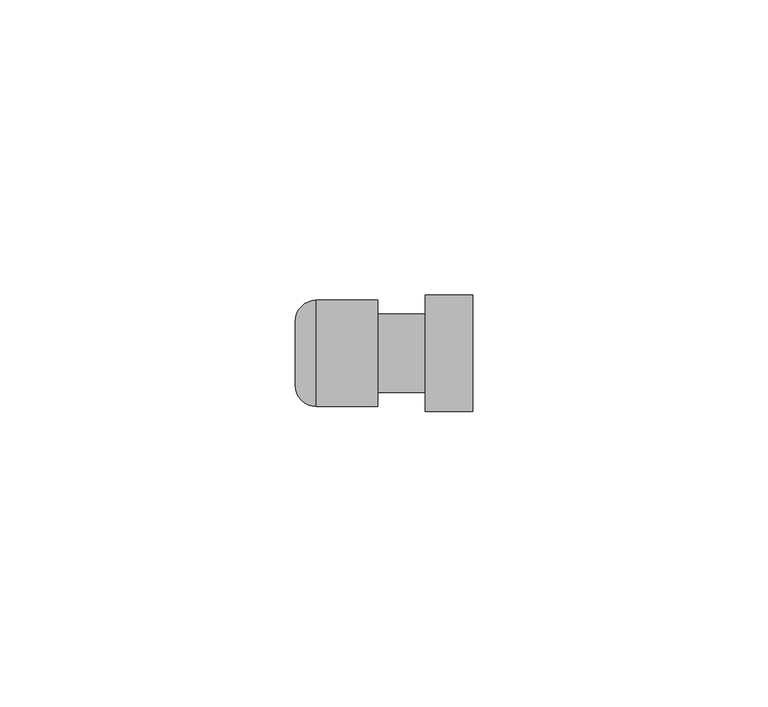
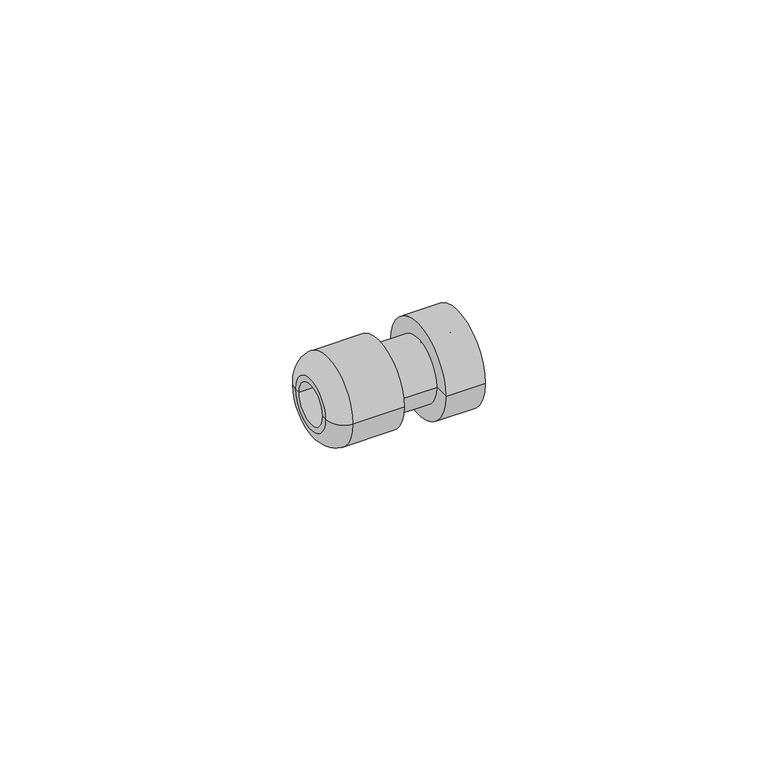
"""IFC4 building model written with IfcOpenShell, lengths in millimetres: cable carrier fitting geometry."""

from ifc_helpers import new_model, si_unit, point, frame, origin, place, context, project, spatial, polyline, circle_curve, ellipse_curve, trimmed, source, transform, mapped, element, save
from ifc_brep_helpers import plane_surface, cylinder_surface, revolved_surface, advanced_brep


def cable_carrier_fitting_92adc8bc(model_context):
    return source(origin(), model_context, "Body", "AdvancedBrep", [
        advanced_brep(
        [(0.0, -9.0, 0.0), (0.0, 9.0, 0.0), (0.0, 6.625, 0.0), (0.0, -6.625, 0.0), (-10.339955, -9.0, 0.0), (-10.339955, 9.0, 0.0), (-13.9, -5.439955, 0.0), (-13.9, 5.439955, 0.0), (-13.9, -4.25, 0.0), (-13.9, 4.25, 0.0), (16.1, -4.25, 0.0), (16.1, 4.25, 0.0), (16.1, -9.85, 0.0), (16.1, 9.85, 0.0), (8.1, -9.85, 0.0), (8.1, 9.85, 0.0), (8.1, -6.625, 0.0), (8.1, 6.625, 0.0)],
        [
            (0, 1, circle_curve(frame((0.0, 0.0, 0.0), z_axis=(1.0, 0.0, 0.0), x_axis=(0.0, 1.0, 0.0)), 9.0)),
            (1, 2),
            (2, 3, circle_curve(frame((0.0, 0.0, 0.0), z_axis=(-1.0, 0.0, 0.0), x_axis=(0.0, 1.0, 0.0)), 6.625)),
            (3, 0),
            (1, 0, circle_curve(frame((0.0, 0.0, 0.0), z_axis=(1.0, 0.0, 0.0), x_axis=(0.0, 1.0, 0.0)), 9.0)),
            (3, 2, circle_curve(frame((0.0, 0.0, 0.0), z_axis=(-1.0, 0.0, 0.0), x_axis=(0.0, 1.0, 0.0)), 6.625)),
            (4, 5, circle_curve(frame((-10.339955, 0.0, 0.0), z_axis=(1.0, 0.0, 0.0), x_axis=(0.0, 1.0, 0.0)), 9.0)),
            (5, 1),
            (0, 4),
            (5, 4, circle_curve(frame((-10.339955, 0.0, 0.0), z_axis=(1.0, 0.0, 0.0), x_axis=(0.0, 1.0, 0.0)), 9.0)),
            (6, 7, circle_curve(frame((-13.9, 0.0, 0.0), z_axis=(1.0, 0.0, 0.0), x_axis=(0.0, 1.0, 0.0)), 5.439955)),
            (7, 5, circle_curve(frame((-10.339955, 5.439955, 0.0), z_axis=(0.0, 0.0, -1.0), x_axis=(1.0, 0.0, 0.0)), 3.560045)),
            (4, 6, circle_curve(frame((-10.339955, -5.439955, 0.0), z_axis=(0.0, 0.0, -1.0), x_axis=(1.0, 0.0, 0.0)), 3.560045)),
            (7, 6, circle_curve(frame((-13.9, 0.0, 0.0), z_axis=(1.0, 0.0, 0.0), x_axis=(0.0, 1.0, 0.0)), 5.439955)),
            (8, 9, circle_curve(frame((-13.9, 0.0, 0.0), z_axis=(1.0, 0.0, 0.0), x_axis=(0.0, 1.0, 0.0)), 4.25)),
            (9, 7),
            (6, 8),
            (9, 8, circle_curve(frame((-13.9, 0.0, 0.0), z_axis=(1.0, 0.0, 0.0), x_axis=(0.0, 1.0, 0.0)), 4.25)),
            (10, 11, circle_curve(frame((16.1, 0.0, 0.0), z_axis=(1.0, 0.0, 0.0), x_axis=(0.0, 1.0, 0.0)), 4.25)),
            (11, 9),
            (8, 10),
            (11, 10, circle_curve(frame((16.1, 0.0, 0.0), z_axis=(1.0, 0.0, 0.0), x_axis=(0.0, 1.0, 0.0)), 4.25)),
            (12, 13, circle_curve(frame((16.1, 0.0, 0.0), z_axis=(1.0, 0.0, 0.0), x_axis=(0.0, 1.0, 0.0)), 9.85)),
            (13, 11),
            (10, 12),
            (13, 12, circle_curve(frame((16.1, 0.0, 0.0), z_axis=(1.0, 0.0, 0.0), x_axis=(0.0, 1.0, 0.0)), 9.85)),
            (14, 15, circle_curve(frame((8.1, 0.0, 0.0), z_axis=(1.0, 0.0, 0.0), x_axis=(0.0, 1.0, 0.0)), 9.85)),
            (15, 13),
            (12, 14),
            (15, 14, circle_curve(frame((8.1, 0.0, 0.0), z_axis=(1.0, 0.0, 0.0), x_axis=(0.0, 1.0, 0.0)), 9.85)),
            (16, 17, circle_curve(frame((8.1, 0.0, 0.0), z_axis=(1.0, 0.0, 0.0), x_axis=(0.0, 1.0, 0.0)), 6.625)),
            (17, 15),
            (14, 16),
            (17, 16, circle_curve(frame((8.1, 0.0, 0.0), z_axis=(1.0, 0.0, 0.0), x_axis=(0.0, 1.0, 0.0)), 6.625)),
            (2, 17),
            (16, 3),
        ],
        [
            plane_surface(frame((0.0, 0.0, 0.0), z_axis=(1.0, 0.0, 0.0), x_axis=(0.0, 1.0, 0.0))),
            cylinder_surface(frame((1540.5, 0.0, 0.0), z_axis=(-1.0, 0.0, 0.0), x_axis=(0.0, 1.0, 0.0)), 9.0),
            revolved_surface(trimmed(ellipse_curve(frame((-10.339955, 5.439955, 0.0), z_axis=(0.0, 0.0, 1.0), x_axis=(1.0, 0.0, 0.0)), 3.560045, 3.560045), [point((-10.339955, 9.0, 0.0))], [point((-13.9, 5.439955, 0.0))], True, "CARTESIAN"), (1540.5, 0.0, 0.0), (-1.0, 0.0, 0.0)),
            plane_surface(frame((-13.9, 0.0, 0.0), z_axis=(-1.0, 0.0, 0.0), x_axis=(0.0, 1.0, 0.0))),
            revolved_surface(polyline([(-13.900000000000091, 4.25, 0.0), (16.09999999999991, 4.25, 0.0)]), (1540.5, 0.0, 0.0), (-1.0, 0.0, 0.0)),
            plane_surface(frame((16.1, 0.0, 0.0), z_axis=(1.0, 0.0, 0.0), x_axis=(0.0, 1.0, 0.0))),
            cylinder_surface(frame((1540.5, 0.0, 0.0), z_axis=(-1.0, 0.0, 0.0), x_axis=(0.0, 1.0, 0.0)), 9.85),
            plane_surface(frame((8.1, 0.0, 0.0), z_axis=(-1.0, 0.0, 0.0), x_axis=(0.0, 1.0, 0.0))),
            cylinder_surface(frame((1540.5, 0.0, 0.0), z_axis=(-1.0, 0.0, 0.0), x_axis=(0.0, 1.0, 0.0)), 6.625),
        ],
        [
            (0, [[1, 2, 3, 4]]),
            (0, [[5, -4, 6, -2]]),
            (1, [[7, 8, -1, 9]]),
            (1, [[10, -9, -5, -8]]),
            (2, [[11, 12, -7, 13]]),
            (2, [[14, -13, -10, -12]]),
            (3, [[15, 16, -11, 17]]),
            (3, [[18, -17, -14, -16]]),
            (4, [[19, 20, -15, 21]]),
            (4, [[22, -21, -18, -20]]),
            (5, [[23, 24, -19, 25]]),
            (5, [[26, -25, -22, -24]]),
            (6, [[27, 28, -23, 29]]),
            (6, [[30, -29, -26, -28]]),
            (7, [[31, 32, -27, 33]]),
            (7, [[34, -33, -30, -32]]),
            (8, [[-3, 35, -31, 36]]),
            (8, [[-6, -36, -34, -35]]),
        ],
    ),
    ])


if __name__ == "__main__":
    model = new_model("IFC4")
    model_context = context("Model", 3, world=origin())
    ifc_project = project(units=[si_unit("LENGTHUNIT", "METRE", prefix="MILLI")], contexts=[model_context])
    site = spatial("IfcSite", under=ifc_project)
    building = spatial("IfcBuilding", under=site)
    placement = place(None, origin())
    cable_carrier_fitting_shape = cable_carrier_fitting_92adc8bc(model_context)
    element("IfcCableCarrierFitting", 1, at=placement, inside=building, context=model_context, shape_type="MappedRepresentation", body=[
        mapped(cable_carrier_fitting_shape, transform((0.0, 0.0, 0.0), x_axis=(1.0, 0.0, 0.0), y_axis=(0.0, 1.0, 0.0), z_axis=(0.0, 0.0, 1.0))),
    ])
    save(model, "model.ifc")
